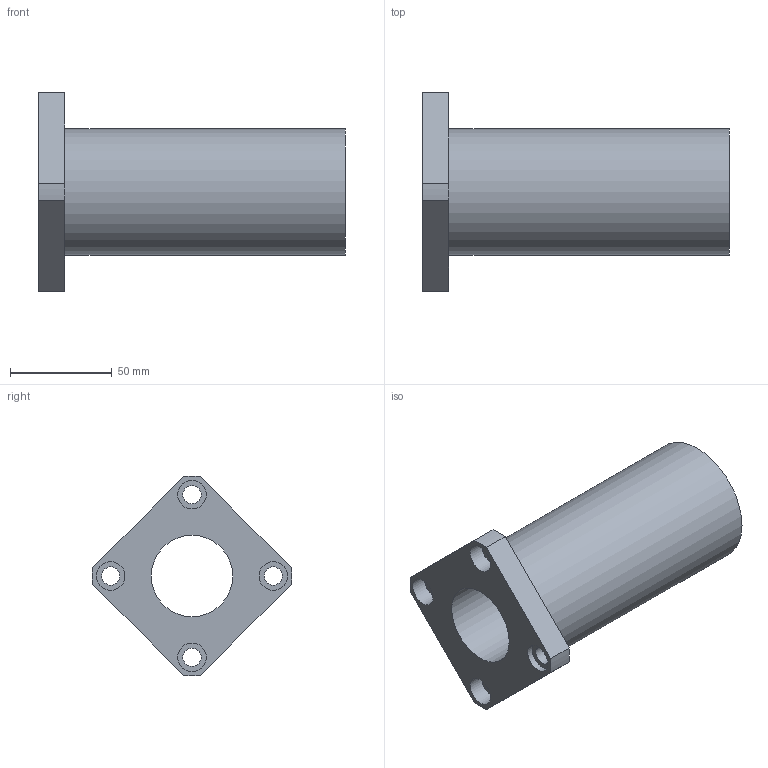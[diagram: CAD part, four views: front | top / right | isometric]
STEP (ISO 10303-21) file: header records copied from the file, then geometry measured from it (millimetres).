
FILE_DESCRIPTION( ( 'STEP AP203' ), '1' );
FILE_NAME( 'p:/temp/worker_8/temp/exporttempdir_3776_933_tclu2/format_0/LMEK40LUU.stp', '2020-05-07T07:02:47', ( 'License CC BY-ND 4.0' ), ( 'CADENAS' ), ' ', 'PARTsolutions', ' ' );
FILE_SCHEMA( ( 'CONFIG_CONTROL_DESIGN' ) );
Length unit declared in the file: millimetre
Products named in the file (1): _LMEK40LUU
Bounding box: 151 x 97.96 x 97.96 mm (x, y, z)
Volume: 293351.1 mm3; surface area: 59568.2 mm2
Topology: 1 solids, 1 shells, 25 faces, 55 edges, 37 vertices
Faces by surface type: cylinder 14, plane 11
Full cylindrical faces by diameter (mm): 9 x4, 14 x4, 40 x1, 62 x1
Entity records: 710 total; most frequent: DIRECTION 124, CARTESIAN_POINT 106, ORIENTED_EDGE 88, AXIS2_PLACEMENT_3D 54, EDGE_LOOP 50, EDGE_CURVE 44, VERTEX_POINT 36, FACE_OUTER_BOUND 35
